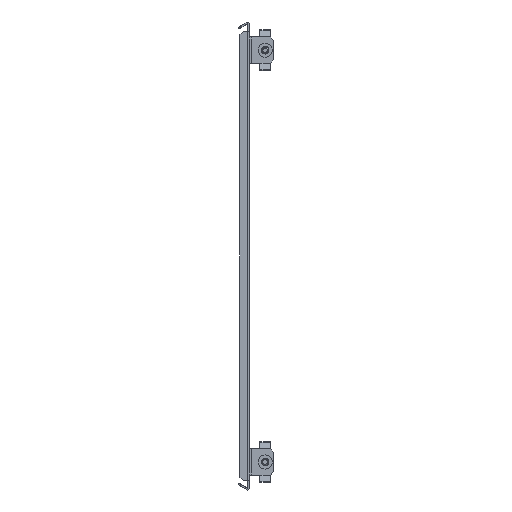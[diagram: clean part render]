
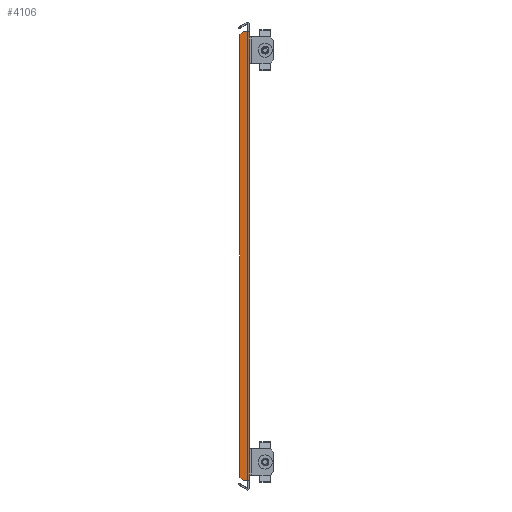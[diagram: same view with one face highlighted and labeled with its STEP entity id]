
A CAD part, front view. The second image highlights one B-rep face of the part: STEP entity #4106.
In plain terms, the highlighted planar face has unit normal (0, -1, 0).
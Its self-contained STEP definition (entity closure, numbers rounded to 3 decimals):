
#1360 = EDGE_CURVE ( 'NONE', #11463, #7569, #22703, .T. ) ;
#2049 = VECTOR ( 'NONE', #36257, 1000. ) ;
#2247 = VECTOR ( 'NONE', #36610, 1000. ) ;
#2411 = VERTEX_POINT ( 'NONE', #33480 ) ;
#2417 = DIRECTION ( 'NONE',  ( 0., 0., -1. ) ) ;
#2747 = DIRECTION ( 'NONE',  ( 0., 0., 1. ) ) ;
#2771 = CARTESIAN_POINT ( 'NONE',  ( 0., -353., 0. ) ) ;
#3060 = EDGE_CURVE ( 'NONE', #2411, #25094, #11307, .T. ) ;
#3099 = EDGE_CURVE ( 'NONE', #7569, #30637, #11489, .T. ) ;
#3115 = ORIENTED_EDGE ( 'NONE', *, *, #34845, .T. ) ;
#3160 = VECTOR ( 'NONE', #2747, 1000. ) ;
#3191 = ORIENTED_EDGE ( 'NONE', *, *, #25497, .T. ) ;
#3848 = VERTEX_POINT ( 'NONE', #28783 ) ;
#4106 = ADVANCED_FACE ( 'NONE', ( #30444 ), #7584, .F. ) ;
#4174 = CARTESIAN_POINT ( 'NONE',  ( 0., -353., 0. ) ) ;
#4236 = VECTOR ( 'NONE', #35081, 1000. ) ;
#4676 = ORIENTED_EDGE ( 'NONE', *, *, #3060, .T. ) ;
#4883 = EDGE_CURVE ( 'NONE', #3848, #29481, #5201, .T. ) ;
#4960 = CARTESIAN_POINT ( 'NONE',  ( 0., -353., 0. ) ) ;
#5148 = LINE ( 'NONE', #31365, #15818 ) ;
#5201 = LINE ( 'NONE', #24564, #2049 ) ;
#7518 = ORIENTED_EDGE ( 'NONE', *, *, #4883, .T. ) ;
#7550 = CARTESIAN_POINT ( 'NONE',  ( 0., -353., 190.897 ) ) ;
#7569 = VERTEX_POINT ( 'NONE', #12977 ) ;
#7584 = PLANE ( 'NONE',  #27524 ) ;
#8329 = CARTESIAN_POINT ( 'NONE',  ( -97.948, -353., 97.948 ) ) ;
#8539 = CARTESIAN_POINT ( 'NONE',  ( 0., -353., 0. ) ) ;
#10225 = CARTESIAN_POINT ( 'NONE',  ( 0., -353., 186.095 ) ) ;
#11307 = LINE ( 'NONE', #8329, #31559 ) ;
#11463 = VERTEX_POINT ( 'NONE', #18488 ) ;
#11466 = DIRECTION ( 'NONE',  ( 1., 0., 0. ) ) ;
#11489 = LINE ( 'NONE', #20062, #4236 ) ;
#12557 = DIRECTION ( 'NONE',  ( 0., 0., 1. ) ) ;
#12767 = EDGE_CURVE ( 'NONE', #29653, #16192, #18675, .T. ) ;
#12977 = CARTESIAN_POINT ( 'NONE',  ( 0., -353., -186.095 ) ) ;
#13524 = DIRECTION ( 'NONE',  ( 0., 1., 0. ) ) ;
#14116 = LINE ( 'NONE', #2771, #2247 ) ;
#14451 = ORIENTED_EDGE ( 'NONE', *, *, #22359, .F. ) ;
#14744 = CARTESIAN_POINT ( 'NONE',  ( -5., -353., -190.897 ) ) ;
#15818 = VECTOR ( 'NONE', #11466, 1000. ) ;
#16192 = VERTEX_POINT ( 'NONE', #10225 ) ;
#16381 = CARTESIAN_POINT ( 'NONE',  ( 0., -353., 163.75 ) ) ;
#16555 = LINE ( 'NONE', #27721, #31115 ) ;
#16657 = VECTOR ( 'NONE', #12557, 1000. ) ;
#16688 = EDGE_CURVE ( 'NONE', #29481, #11463, #5148, .T. ) ;
#16796 = ORIENTED_EDGE ( 'NONE', *, *, #16688, .T. ) ;
#16836 = CARTESIAN_POINT ( 'NONE',  ( 0., -353., -163.75 ) ) ;
#17625 = VECTOR ( 'NONE', #21518, 1000. ) ;
#18488 = CARTESIAN_POINT ( 'NONE',  ( 0., -353., -190.897 ) ) ;
#18675 = LINE ( 'NONE', #4174, #16657 ) ;
#19197 = EDGE_CURVE ( 'NONE', #30637, #29653, #14116, .T. ) ;
#20062 = CARTESIAN_POINT ( 'NONE',  ( 0., -353., 0. ) ) ;
#21518 = DIRECTION ( 'NONE',  ( 1., 0., 0. ) ) ;
#22036 = EDGE_LOOP ( 'NONE', ( #16796, #28551, #32497, #30083, #30895, #3115, #14451, #4676, #3191, #7518 ) ) ;
#22359 = EDGE_CURVE ( 'NONE', #2411, #30506, #35239, .T. ) ;
#22703 = LINE ( 'NONE', #8539, #35518 ) ;
#24564 = CARTESIAN_POINT ( 'NONE',  ( -97.948, -353., -97.948 ) ) ;
#24897 = DIRECTION ( 'NONE',  ( 0., 0., -1. ) ) ;
#25094 = VERTEX_POINT ( 'NONE', #29214 ) ;
#25460 = DIRECTION ( 'NONE',  ( -0.707, 0., -0.707 ) ) ;
#25497 = EDGE_CURVE ( 'NONE', #25094, #3848, #16555, .T. ) ;
#27524 = AXIS2_PLACEMENT_3D ( 'NONE', #4960, #13524, #24897 ) ;
#27721 = CARTESIAN_POINT ( 'NONE',  ( -8., -353., 0. ) ) ;
#28405 = LINE ( 'NONE', #36403, #3160 ) ;
#28551 = ORIENTED_EDGE ( 'NONE', *, *, #1360, .T. ) ;
#28783 = CARTESIAN_POINT ( 'NONE',  ( -8., -353., -187.897 ) ) ;
#29214 = CARTESIAN_POINT ( 'NONE',  ( -8., -353., 187.897 ) ) ;
#29481 = VERTEX_POINT ( 'NONE', #14744 ) ;
#29653 = VERTEX_POINT ( 'NONE', #16381 ) ;
#30083 = ORIENTED_EDGE ( 'NONE', *, *, #19197, .T. ) ;
#30444 = FACE_OUTER_BOUND ( 'NONE', #22036, .T. ) ;
#30506 = VERTEX_POINT ( 'NONE', #32860 ) ;
#30637 = VERTEX_POINT ( 'NONE', #16836 ) ;
#30895 = ORIENTED_EDGE ( 'NONE', *, *, #12767, .T. ) ;
#31115 = VECTOR ( 'NONE', #2417, 1000. ) ;
#31365 = CARTESIAN_POINT ( 'NONE',  ( 0., -353., -190.897 ) ) ;
#31559 = VECTOR ( 'NONE', #25460, 1000. ) ;
#32497 = ORIENTED_EDGE ( 'NONE', *, *, #3099, .T. ) ;
#32860 = CARTESIAN_POINT ( 'NONE',  ( 0., -353., 190.897 ) ) ;
#33480 = CARTESIAN_POINT ( 'NONE',  ( -5., -353., 190.897 ) ) ;
#33844 = DIRECTION ( 'NONE',  ( 0., 0., 1. ) ) ;
#34845 = EDGE_CURVE ( 'NONE', #16192, #30506, #28405, .T. ) ;
#35081 = DIRECTION ( 'NONE',  ( 0., 0., 1. ) ) ;
#35239 = LINE ( 'NONE', #7550, #17625 ) ;
#35518 = VECTOR ( 'NONE', #33844, 1000. ) ;
#36257 = DIRECTION ( 'NONE',  ( 0.707, 0., -0.707 ) ) ;
#36403 = CARTESIAN_POINT ( 'NONE',  ( 0., -353., 0. ) ) ;
#36610 = DIRECTION ( 'NONE',  ( 0., 0., 1. ) ) ;
